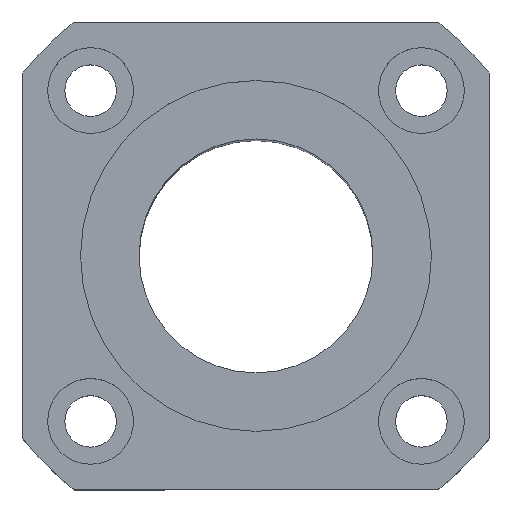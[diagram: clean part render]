
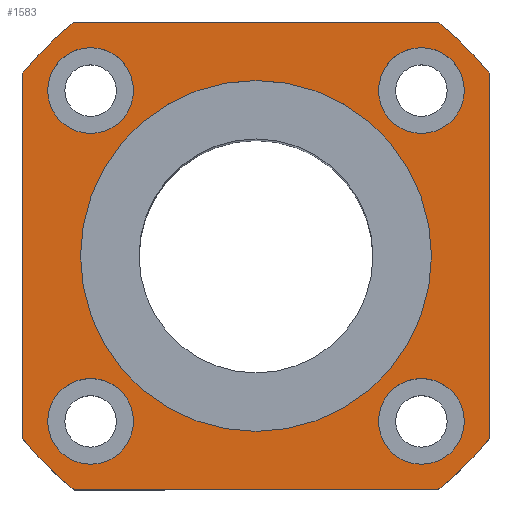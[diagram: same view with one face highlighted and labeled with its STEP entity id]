
A CAD part, top view. The second image highlights one B-rep face of the part: STEP entity #1583.
In plain terms, the highlighted planar face has unit normal (0, 0, 1).
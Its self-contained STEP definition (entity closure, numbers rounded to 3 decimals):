
#133=CARTESIAN_POINT('',(-22.5,0.,123.0));
#134=VERTEX_POINT('',#133);
#143=CARTESIAN_POINT('',(22.5,0.,123.0));
#144=VERTEX_POINT('',#143);
#145=CARTESIAN_POINT('',(0.0,0.0,123.0));
#146=DIRECTION('',(0.0,0.0,-1.0));
#147=DIRECTION('',(-1.0,0.0,0.0));
#148=AXIS2_PLACEMENT_3D('',#145,#146,#147);
#149=CIRCLE('',#148,22.5);
#150=EDGE_CURVE('',#144,#134,#149,.T.);
#303=CARTESIAN_POINT('',(-15.713,21.213,123.0));
#304=VERTEX_POINT('',#303);
#320=CARTESIAN_POINT('',(-26.713,21.213,123.0));
#321=VERTEX_POINT('',#320);
#328=CARTESIAN_POINT('',(-21.213,21.213,123.0));
#329=DIRECTION('',(0.0,0.0,-1.0));
#330=DIRECTION('',(1.0,0.0,0.0));
#331=AXIS2_PLACEMENT_3D('',#328,#329,#330);
#332=CIRCLE('',#331,5.5);
#333=EDGE_CURVE('',#304,#321,#332,.T.);
#429=CARTESIAN_POINT('',(-21.213,-15.713,123.0));
#430=VERTEX_POINT('',#429);
#446=CARTESIAN_POINT('',(-21.213,-26.713,123.0));
#447=VERTEX_POINT('',#446);
#454=CARTESIAN_POINT('',(-21.213,-21.213,123.0));
#455=DIRECTION('',(0.0,0.0,-1.0));
#456=DIRECTION('',(0.0,1.0,0.0));
#457=AXIS2_PLACEMENT_3D('',#454,#455,#456);
#458=CIRCLE('',#457,5.5);
#459=EDGE_CURVE('',#430,#447,#458,.T.);
#555=CARTESIAN_POINT('',(15.713,-21.213,123.0));
#556=VERTEX_POINT('',#555);
#572=CARTESIAN_POINT('',(26.713,-21.213,123.0));
#573=VERTEX_POINT('',#572);
#580=CARTESIAN_POINT('',(21.213,-21.213,123.0));
#581=DIRECTION('',(0.0,0.0,-1.0));
#582=DIRECTION('',(-1.0,0.0,0.0));
#583=AXIS2_PLACEMENT_3D('',#580,#581,#582);
#584=CIRCLE('',#583,5.5);
#585=EDGE_CURVE('',#556,#573,#584,.T.);
#681=CARTESIAN_POINT('',(21.213,15.713,123.0));
#682=VERTEX_POINT('',#681);
#698=CARTESIAN_POINT('',(21.213,26.713,123.0));
#699=VERTEX_POINT('',#698);
#706=CARTESIAN_POINT('',(21.213,21.213,123.0));
#707=DIRECTION('',(0.0,0.0,-1.0));
#708=DIRECTION('',(0.0,-1.0,0.0));
#709=AXIS2_PLACEMENT_3D('',#706,#707,#708);
#710=CIRCLE('',#709,5.5);
#711=EDGE_CURVE('',#682,#699,#710,.T.);
#769=CARTESIAN_POINT('',(21.213,21.213,123.0));
#770=DIRECTION('',(0.0,0.0,-1.0));
#771=DIRECTION('',(0.0,-1.0,0.0));
#772=AXIS2_PLACEMENT_3D('',#769,#770,#771);
#773=CIRCLE('',#772,5.5);
#774=EDGE_CURVE('',#699,#682,#773,.T.);
#873=CARTESIAN_POINT('',(21.213,-21.213,123.0));
#874=DIRECTION('',(0.0,0.0,-1.0));
#875=DIRECTION('',(-1.0,0.0,0.0));
#876=AXIS2_PLACEMENT_3D('',#873,#874,#875);
#877=CIRCLE('',#876,5.5);
#878=EDGE_CURVE('',#573,#556,#877,.T.);
#977=CARTESIAN_POINT('',(-21.213,-21.213,123.0));
#978=DIRECTION('',(0.0,0.0,-1.0));
#979=DIRECTION('',(0.0,1.0,0.0));
#980=AXIS2_PLACEMENT_3D('',#977,#978,#979);
#981=CIRCLE('',#980,5.5);
#982=EDGE_CURVE('',#447,#430,#981,.T.);
#1081=CARTESIAN_POINT('',(-21.213,21.213,123.0));
#1082=DIRECTION('',(0.0,0.0,-1.0));
#1083=DIRECTION('',(1.0,0.0,0.0));
#1084=AXIS2_PLACEMENT_3D('',#1081,#1082,#1083);
#1085=CIRCLE('',#1084,5.5);
#1086=EDGE_CURVE('',#321,#304,#1085,.T.);
#1147=CARTESIAN_POINT('',(-30.,-23.324,123.0));
#1148=VERTEX_POINT('',#1147);
#1155=CARTESIAN_POINT('',(-30.,23.324,123.0));
#1156=VERTEX_POINT('',#1155);
#1157=CARTESIAN_POINT('',(-30.,23.324,123.0));
#1158=DIRECTION('',(0.0,-1.0,0.0));
#1159=VECTOR('',#1158,46.648);
#1160=LINE('',#1157,#1159);
#1161=EDGE_CURVE('',#1156,#1148,#1160,.T.);
#1186=CARTESIAN_POINT('',(-23.324,-30.,123.0));
#1187=VERTEX_POINT('',#1186);
#1194=CARTESIAN_POINT('',(0.0,0.0,123.0));
#1195=DIRECTION('',(0.0,0.0,1.0));
#1196=DIRECTION('',(1.0,0.0,0.0));
#1197=AXIS2_PLACEMENT_3D('',#1194,#1195,#1196);
#1198=CIRCLE('',#1197,38.0);
#1199=EDGE_CURVE('',#1148,#1187,#1198,.T.);
#1218=CARTESIAN_POINT('',(23.324,-30.,123.0));
#1219=VERTEX_POINT('',#1218);
#1226=CARTESIAN_POINT('',(-23.324,-30.,123.0));
#1227=DIRECTION('',(1.0,0.0,0.0));
#1228=VECTOR('',#1227,46.648);
#1229=LINE('',#1226,#1228);
#1230=EDGE_CURVE('',#1187,#1219,#1229,.T.);
#1250=CARTESIAN_POINT('',(30.0,-23.324,123.0));
#1251=VERTEX_POINT('',#1250);
#1258=CARTESIAN_POINT('',(0.0,0.0,123.0));
#1259=DIRECTION('',(0.0,0.0,1.0));
#1260=DIRECTION('',(1.0,0.0,0.0));
#1261=AXIS2_PLACEMENT_3D('',#1258,#1259,#1260);
#1262=CIRCLE('',#1261,38.0);
#1263=EDGE_CURVE('',#1219,#1251,#1262,.T.);
#1282=CARTESIAN_POINT('',(30.0,23.324,123.0));
#1283=VERTEX_POINT('',#1282);
#1290=CARTESIAN_POINT('',(30.0,-23.324,123.0));
#1291=DIRECTION('',(0.0,1.0,0.0));
#1292=VECTOR('',#1291,46.648);
#1293=LINE('',#1290,#1292);
#1294=EDGE_CURVE('',#1251,#1283,#1293,.T.);
#1314=CARTESIAN_POINT('',(23.324,30.0,123.0));
#1315=VERTEX_POINT('',#1314);
#1322=CARTESIAN_POINT('',(0.0,0.0,123.0));
#1323=DIRECTION('',(0.0,0.0,1.0));
#1324=DIRECTION('',(1.0,0.0,0.0));
#1325=AXIS2_PLACEMENT_3D('',#1322,#1323,#1324);
#1326=CIRCLE('',#1325,38.0);
#1327=EDGE_CURVE('',#1283,#1315,#1326,.T.);
#1346=CARTESIAN_POINT('',(-23.324,30.0,123.0));
#1347=VERTEX_POINT('',#1346);
#1354=CARTESIAN_POINT('',(23.324,30.0,123.0));
#1355=DIRECTION('',(-1.0,0.0,0.0));
#1356=VECTOR('',#1355,46.648);
#1357=LINE('',#1354,#1356);
#1358=EDGE_CURVE('',#1315,#1347,#1357,.T.);
#1377=CARTESIAN_POINT('',(0.0,0.0,123.0));
#1378=DIRECTION('',(0.0,0.0,1.0));
#1379=DIRECTION('',(1.0,0.0,0.0));
#1380=AXIS2_PLACEMENT_3D('',#1377,#1378,#1379);
#1381=CIRCLE('',#1380,38.0);
#1382=EDGE_CURVE('',#1347,#1156,#1381,.T.);
#1502=CARTESIAN_POINT('',(0.0,0.0,123.0));
#1503=DIRECTION('',(0.0,0.0,-1.0));
#1504=DIRECTION('',(-1.0,0.0,0.0));
#1505=AXIS2_PLACEMENT_3D('',#1502,#1503,#1504);
#1506=CIRCLE('',#1505,22.5);
#1507=EDGE_CURVE('',#134,#144,#1506,.T.);
#1548=CARTESIAN_POINT('',(0.0,0.0,123.0));
#1549=DIRECTION('',(0.0,0.0,-1.0));
#1550=DIRECTION('',(-1.0,0.0,0.0));
#1551=AXIS2_PLACEMENT_3D('',#1548,#1549,#1550);
#1552=PLANE('',#1551);
#1553=ORIENTED_EDGE('',*,*,#1382,.T.);
#1554=ORIENTED_EDGE('',*,*,#1161,.T.);
#1555=ORIENTED_EDGE('',*,*,#1199,.T.);
#1556=ORIENTED_EDGE('',*,*,#1230,.T.);
#1557=ORIENTED_EDGE('',*,*,#1263,.T.);
#1558=ORIENTED_EDGE('',*,*,#1294,.T.);
#1559=ORIENTED_EDGE('',*,*,#1327,.T.);
#1560=ORIENTED_EDGE('',*,*,#1358,.T.);
#1561=EDGE_LOOP('',(#1553,#1554,#1555,#1556,#1557,#1558,#1559,#1560));
#1562=FACE_OUTER_BOUND('',#1561,.T.);
#1563=ORIENTED_EDGE('',*,*,#711,.T.);
#1564=ORIENTED_EDGE('',*,*,#774,.T.);
#1565=EDGE_LOOP('',(#1563,#1564));
#1566=FACE_BOUND('',#1565,.T.);
#1567=ORIENTED_EDGE('',*,*,#585,.T.);
#1568=ORIENTED_EDGE('',*,*,#878,.T.);
#1569=EDGE_LOOP('',(#1567,#1568));
#1570=FACE_BOUND('',#1569,.T.);
#1571=ORIENTED_EDGE('',*,*,#459,.T.);
#1572=ORIENTED_EDGE('',*,*,#982,.T.);
#1573=EDGE_LOOP('',(#1571,#1572));
#1574=FACE_BOUND('',#1573,.T.);
#1575=ORIENTED_EDGE('',*,*,#333,.T.);
#1576=ORIENTED_EDGE('',*,*,#1086,.T.);
#1577=EDGE_LOOP('',(#1575,#1576));
#1578=FACE_BOUND('',#1577,.T.);
#1579=ORIENTED_EDGE('',*,*,#150,.T.);
#1580=ORIENTED_EDGE('',*,*,#1507,.T.);
#1581=EDGE_LOOP('',(#1579,#1580));
#1582=FACE_BOUND('',#1581,.T.);
#1583=ADVANCED_FACE('',(#1562,#1566,#1570,#1574,#1578,#1582),#1552,.F.);
